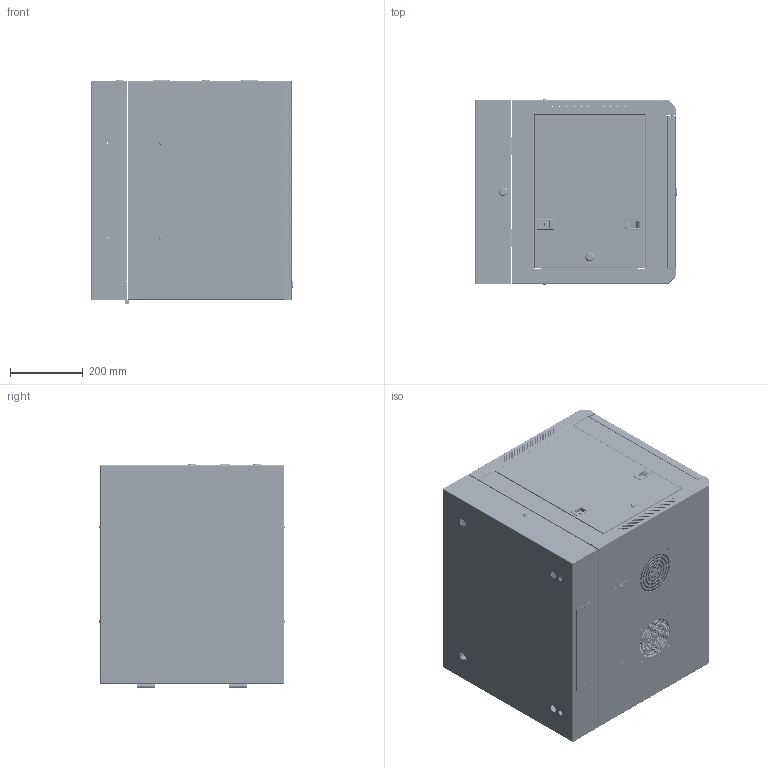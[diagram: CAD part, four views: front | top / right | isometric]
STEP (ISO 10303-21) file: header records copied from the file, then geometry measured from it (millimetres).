
FILE_DESCRIPTION( ( 'Unknown' ), '1' );
FILE_NAME( 'Q:/WEB DRAWINGS/STEP/RB-SW9.stp', 'Unknown', ( 'Unknown' ), ( 'Unknown' ), 'PSStep 16.0.42', 'Unknown', ' ' );
FILE_SCHEMA( ( 'AUTOMOTIVE_DESIGN { 1 0 10303 214 1 1 1 1 }' ) );
Length unit declared in the file: millimetre
Products named in the file (48): ×óÃÅ±ßº¸½Ó; ²£Á§×óÃÅ±ß; ²£Á§Ñ¹Ìõ; ÓÒÃÅ±ßº¸½Ó; ²£Á§ÓÒÃÅ±ß; ²åÏú×ø; M6ÖÐº¸ÂÝ¶¤; ÃÅ×°Åä; ²£Á§; ²åÏú; µ¯»É; »º³åµæ; ½ÓµØ±êÖ¾; lock washer spring extra duty_ai_Extra Duty LW 0.216; flat washer type a narrow_ai_Preferred Narrow FW 0.19; hex nuts, style 1-grades ab gb_GB_FASTENER_NUT_SNAB1 M6-N; 15Ð¡Ô²Ëø; ËøÐ¾-20; ÂÝÄ¸ËøÐ¾; ºó¿òËøÆ¬; curved single coil spring lock washers gb_GB_FASTENER_WASHER_CSLW 5; µæÈ¦M4; M4-10; wallmountfrontlock; ËøÐ¾-20_0; ÂÝÄ¸ËøÐ¾_0; ²àÃÅËøÆ¬_0; curved single coil spring lock washers gb_GB_FASTENER_WASHER_CSLW 5_0; µæÈ¦M4_0; M4-10_0; Assem1; µ×ÅÌ; ¶¥¸Ç; ºáÖ§¼Ü; Ö§¼Ü; ²àÃÅ; sk; ¸Ç°å; ¸¡¶¯ÂÝÄ¸; M4-8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
Assembly tree (90 placements, depth 4):
  Assem1
    µ×ÅÌ
    ¶¥¸Ç
    ºáÖ§¼Ü  x4
    Ö§¼Ü  x2
    ²àÃÅ  x2
    sk  x4
    ¸Ç°å  x4
    ¸¡¶¯ÂÝÄ¸  x8
    M4-8  x4
    ½ÓµØ±êÖ¾
    Ö§¼Ü2  x2
    M6ÖÐº¸ÂÝ¶¤
    hex nuts, style 1-grades ab gb_GB_FASTENER_NUT_SNAB1 M6-N
    flat washer type a narrow_ai_Preferred Narrow FW 0.19
    lock washer spring extra duty_ai_Extra Duty LW 0.216
    3MMËÜÁÏµæÈ¦
    M5-10×Ô¹¥ÂÝ¶¤  x8
    ×óÓÒ¿ò  x2
    ºó×ó¿ò
    ºóÓÒ¿ò
    ½ÂÁ´  x2
    ºó±³°å
    ÃÅ×°Åä
      ²£Á§
      ²åÏú  x2
      µ¯»É  x2
      »º³åµæ  x2
      ½ÓµØ±êÖ¾
      lock washer spring extra duty_ai_Extra Duty LW 0.216
      flat washer type a narrow_ai_Preferred Narrow FW 0.19
      hex nuts, style 1-grades ab gb_GB_FASTENER_NUT_SNAB1 M6-N
      ×óÃÅ±ßº¸½Ó
        ²£Á§×óÃÅ±ß
        ²£Á§Ñ¹Ìõ
      ÓÒÃÅ±ßº¸½Ó
        ²£Á§ÓÒÃÅ±ß
        ²£Á§Ñ¹Ìõ
        ²åÏú×ø  x2
        M6ÖÐº¸ÂÝ¶¤
    15Ð¡Ô²Ëø
      ËøÐ¾-20
      ÂÝÄ¸ËøÐ¾
      ºó¿òËøÆ¬
      curved single coil spring lock washers gb_GB_FASTENER_WASHER_CSLW 5
      µæÈ¦M4
      M4-10
    wallmountfrontlock  x3
      ËøÐ¾-20_0
      ÂÝÄ¸ËøÐ¾_0
      ²àÃÅËøÆ¬_0
      curved single coil spring lock washers gb_GB_FASTENER_WASHER_CSLW 5_0
      µæÈ¦M4_0
      M4-10_0
Bounding box: 553.8 x 510.4 x 616.65 mm (x, y, z)
Volume: 3726974.7 mm3; surface area: 4928680.8 mm2
Topology: 95 solids, 111 shells, 7511 faces, 20821 edges, 13568 vertices
Faces by surface type: plane 4180, cylinder 2313, bspline 454, cone 338, extrusion 212, torus 10, sphere 4
Full cylindrical faces by diameter (mm): 0.5 x2, 1.8 x4, 3 x2, 3.2 x16, 3.5 x20, 4 x8, 4.2 x84, 4.917 x2, 5 x158, 5.2 x20, 5.4 x8, 5.5 x1, 5.563 x2, 5.78 x24, 6 x12, 6.3 x8, 7 x8, 8 x23, 10 x8, 11.2 x2, 11.82 x4, 11.9 x2, 12 x2, 12.7 x2, 13 x6, 15 x2, 16 x4, 16.5 x4, 18.5 x4, 20 x2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
Entity records: 148812 total; most frequent: CARTESIAN_POINT 42271, ORIENTED_EDGE 22306, DIRECTION 20944, EDGE_CURVE 11153, VECTOR 7548, VERTEX_POINT 7469, LINE 7458, AXIS2_PLACEMENT_3D 6698
